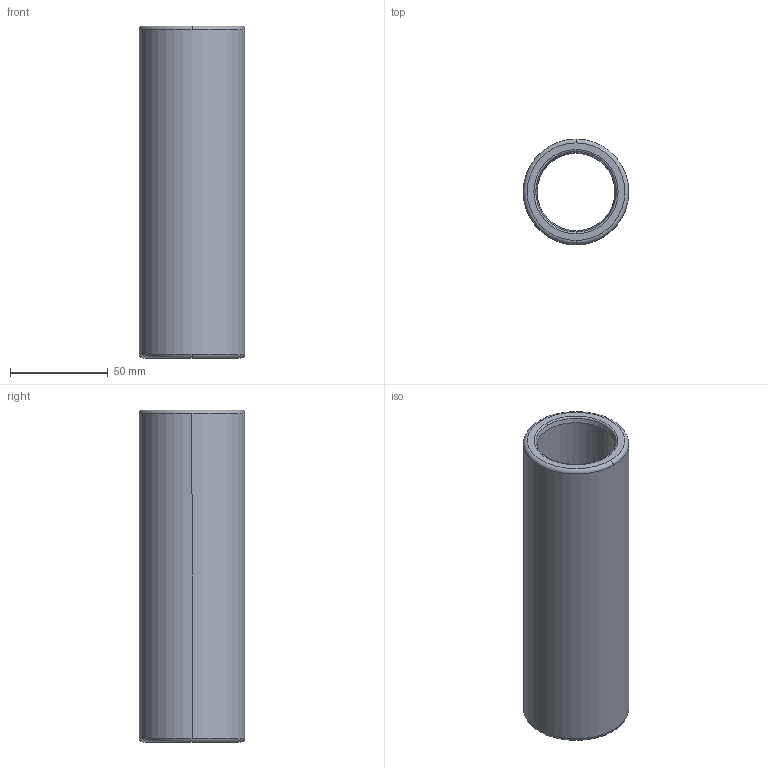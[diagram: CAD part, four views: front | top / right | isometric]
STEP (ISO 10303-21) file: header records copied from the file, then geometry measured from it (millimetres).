
FILE_DESCRIPTION((''),'2;1');
FILE_NAME('B30_032_170.stp','2009-01-12T10:29:48',(''),(''),'Mechanical Desktop 2009','Mechanical Desktop 2009',', , ');
FILE_SCHEMA(('CONFIG_CONTROL_DESIGN'));
Length unit declared in the file: millimetre
Products named in the file (2): Product; blmdl1
Assembly tree (1 placements, depth 2):
  Product
    blmdl1
Bounding box: 53.99 x 53.99 x 170 mm (x, y, z)
Volume: 175246.8 mm3; surface area: 51728 mm2
Topology: 1 solids, 1 shells, 18 faces, 48 edges, 32 vertices
Faces by surface type: torus 8, cylinder 4, cone 4, plane 2
Entity records: 705 total; most frequent: DIRECTION 128, CARTESIAN_POINT 100, ORIENTED_EDGE 96, AXIS2_PLACEMENT_3D 60, EDGE_CURVE 48, CIRCLE 40, VERTEX_POINT 32, EDGE_LOOP 20
